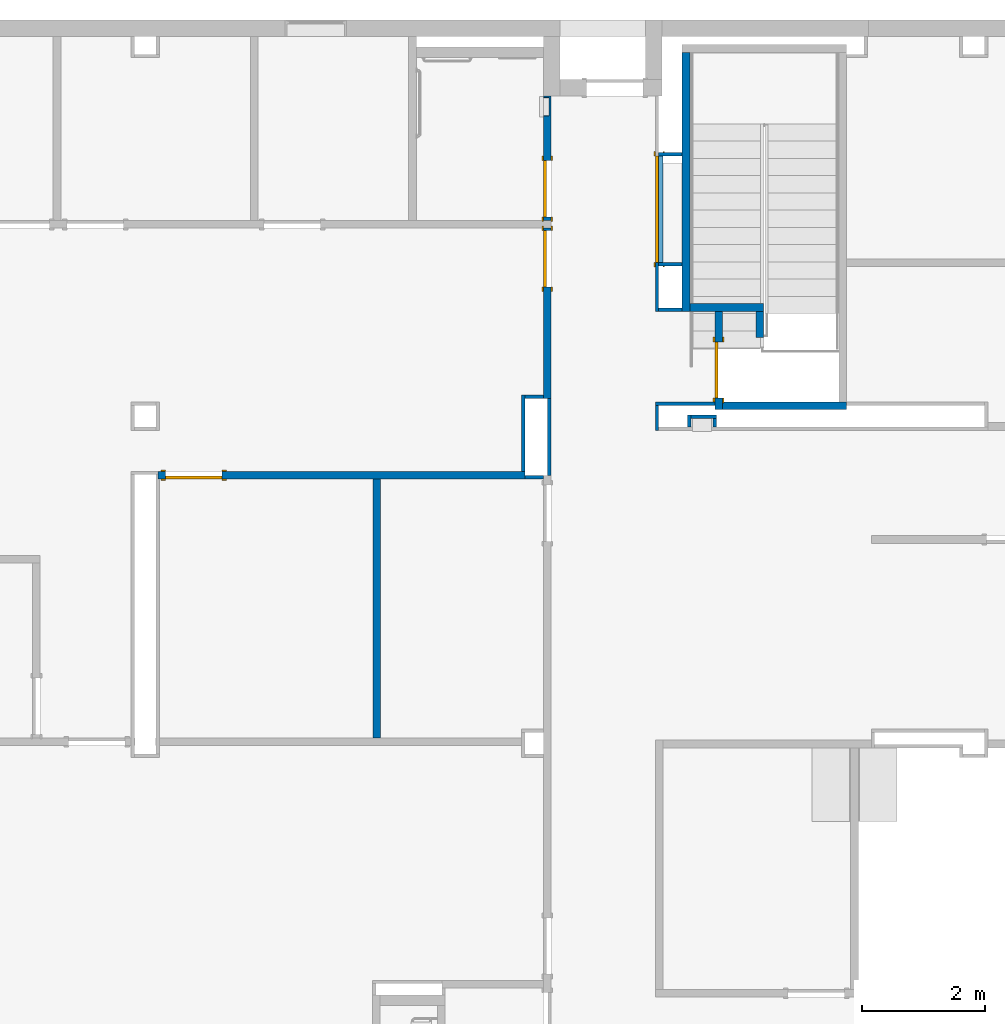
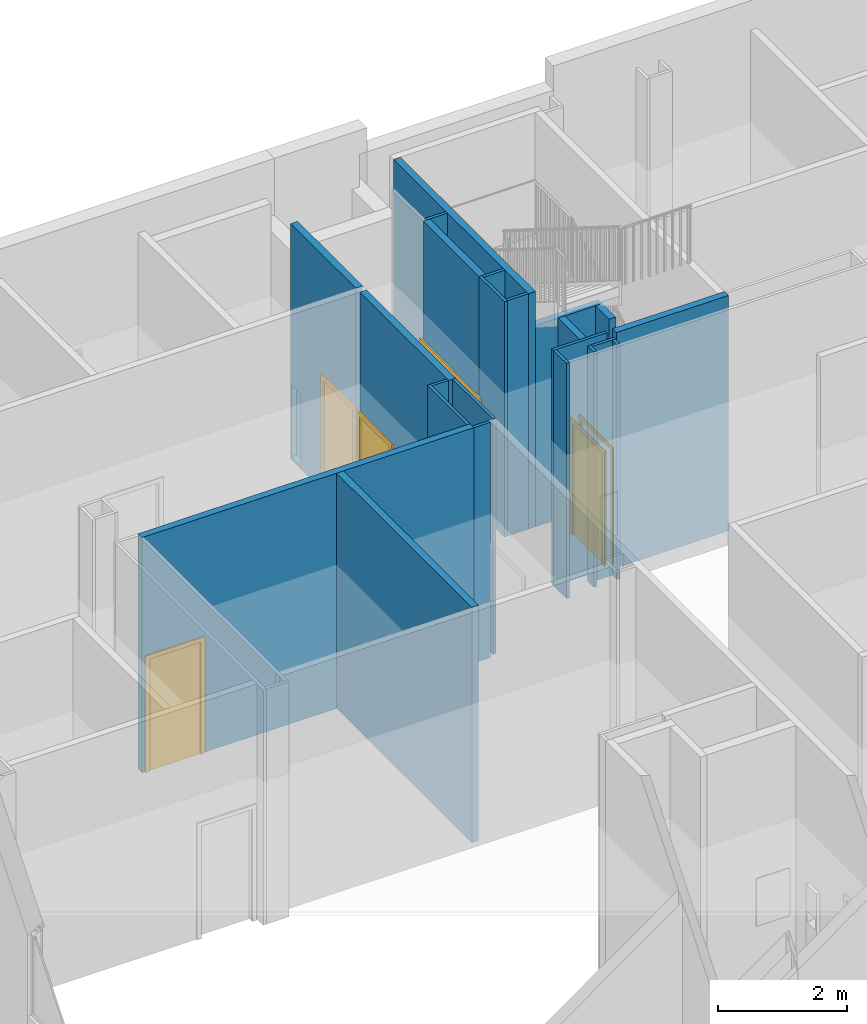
# One storey, part 32 of 87: 23 walls, 5 doors, 6 openings.
"""IFC2X3 building model written with IfcOpenShell, lengths in metres."""

from ifc_helpers import new_model, entity, si_unit, converted_unit, frame, frame_2d, origin, origin_2d_with_axis, place, context, project, spatial, polyline, rectangle, outline, extrude, source, transform, mapped, material, layer, layer_set, layer_usage, type_object, type_shapes, element, fill, save


model = new_model("IFC2X3")

# Units and contexts
model_context = context("Model", 3, precision=1e-09, world=origin())
plan_context = context("Plan", 3, precision=1e-09, world=origin())
ifc_project = project(units=[si_unit("LENGTHUNIT", "METRE"), si_unit("AREAUNIT", "SQUARE_METRE"), si_unit("VOLUMEUNIT", "CUBIC_METRE"), converted_unit("PLANEANGLEUNIT", "DEGREE", entity("IfcRatioMeasure", 0.01745329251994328), si_unit("PLANEANGLEUNIT", "RADIAN"), dimensions=[0, 0, 0, 0, 0, 0, 0]), si_unit("TIMEUNIT", "SECOND")], contexts=[model_context, plan_context])

# Site, building, storey
site_placement = place(None, origin())
site = spatial("IfcSite", under=ifc_project, at=site_placement, Name="Default", CompositionType="ELEMENT")
building_placement = place(site_placement, origin())
building = spatial("IfcBuilding", under=site, at=building_placement, CompositionType="ELEMENT")
storey_placement = place(building_placement, origin())
storey = spatial("IfcBuildingStorey", under=building, at=storey_placement, Name="First Floor", CompositionType="ELEMENT", Elevation=-3.531500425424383e-13)

# Wall, openings, door
ifc_material_1 = material(Name="Plasterboard")
ifc_layer_1 = layer(ifc_material_1, 0.016)
ifc_material_2 = material(Name="Metal - Stud Layer")
ifc_layer_2 = layer(ifc_material_2, 0.092)
ifc_layer_3 = layer(ifc_material_1, 0.016)
ifc_layer_set_1 = layer_set([ifc_layer_1, ifc_layer_2, ifc_layer_3], Name="Basic Wall:Interior - Partition (92mm Stud)")
ifc_layer_usage_1 = layer_usage(ifc_layer_set_1, "AXIS2", "NEGATIVE", 0.062)
wall_1_placement = place(storey_placement, frame((-40.47500000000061, 55.28799999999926, 0.0), z_axis=(0.0, 0.0, 1.0), x_axis=(0.0, -1.0, 0.0)))
wall_1 = element("IfcWallStandardCase", 1, at=wall_1_placement, inside=storey, material=ifc_layer_usage_1, Name="Basic Wall:Interior - Partition (92mm Stud)", ObjectType="Basic Wall:Interior - Partition (92mm Stud)", context=model_context, shape_type="SweptSolid", body=[
    extrude(rectangle(XDim=2.024000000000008, YDim=0.1240000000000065, at=frame_2d((1.012000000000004, 0.0), x_axis=(-1.0, 0.0))), origin(), (0.0, 0.0, 1.0), 4.46800000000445),
])
opening_1_placement = place(wall_1_placement, origin())
element("IfcOpeningElement", 2, at=opening_1_placement, cuts=wall_1, ObjectType="Opening", context=model_context, shape_type="SweptSolid", body=[
    extrude(rectangle(XDim=1.362075, YDim=0.2984499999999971, at=origin_2d_with_axis()), frame((0.1749000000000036, -0.1255000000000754, 0.7371999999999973), z_axis=(0.0, 1.0, 0.0), x_axis=(0.0, 0.0, -1.0)), (0.0, 0.0, 1.0), 0.15240000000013),
])
opening_2_placement = place(wall_1_placement, frame((1.963999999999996, 0.06200000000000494, 0.0)))
opening_2 = element("IfcOpeningElement", 3, at=opening_2_placement, cuts=wall_1, Name="M_Single-Flush:0915 x 2134mm:0915 x 2134mm:1", ObjectType="Opening", context=model_context, shape_type="SweptSolid", body=[
    extrude(rectangle(XDim=0.9149999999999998, YDim=2.134, at=frame_2d((1.067, 0.4575000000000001), x_axis=(0.0, -1.0))), frame((0.0, 0.0, 0.0), z_axis=(0.0, -1.0, 0.0), x_axis=(0.0, 0.0, 1.0)), (0.0, 0.0, 1.0), 0.124),
])
door_style_1 = type_object("IfcDoorStyle", Name="0915 x 2134mm", ConstructionType="NOTDEFINED", OperationType="SINGLE_SWING_LEFT", ParameterTakesPrecedence=False, Sizeable=False)
shared_shape_1 = source(origin(), model_context, "Body", "SweptSolid", [
    extrude(outline(polyline([(-0.5335, -1.123999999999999), (0.5334999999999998, -1.123999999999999), (0.5334999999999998, 1.086), (0.4574999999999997, 1.086), (0.4574999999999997, -1.048000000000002), (-0.4574999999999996, -1.048000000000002), (-0.4574999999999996, 1.086), (-0.5335, 1.086), (-0.5335, -1.123999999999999)])), frame((0.4575000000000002, 0.1489999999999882, 1.086), z_axis=(0.0, -1.0, 0.0), x_axis=(-1.0, 0.0, 0.0)), (0.0, 0.0, 1.0), 0.02499999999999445),
    extrude(outline(polyline([(-1.123999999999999, -0.5334999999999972), (1.085999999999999, -0.5334999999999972), (1.085999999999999, -0.4575000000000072), (-1.048, -0.4575000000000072), (-1.048, 0.4575000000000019), (1.085999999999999, 0.4575000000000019), (1.085999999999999, 0.5335000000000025), (-1.123999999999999, 0.5335000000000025), (-1.123999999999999, -0.5334999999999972)])), frame((0.4574999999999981, 0.0, 1.085999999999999), z_axis=(0.0, -1.0, 0.0), x_axis=(0.0, 0.0, -1.0)), (0.0, 0.0, 1.0), 0.02500000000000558),
    extrude(rectangle(XDim=0.9149999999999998, YDim=0.051, at=origin_2d_with_axis()), frame((0.4575000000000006, 0.09849999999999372, 0.0)), (0.0, 0.0, 1.0), 2.133999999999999),
])
type_shapes(door_style_1, [shared_shape_1])
door_1_placement = place(opening_2_placement, frame((0.0, 0.0, 0.0), z_axis=(0.0, 0.0, 1.0), x_axis=(-1.0, 0.0, 0.0)))
door_1 = element("IfcDoor", 4, at=door_1_placement, inside=storey, type_object=door_style_1, Name="M_Single-Flush:0915 x 2134mm:0915 x 2134mm", ObjectType="0915 x 2134mm", OverallHeight=2.134, OverallWidth=0.9149999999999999, context=model_context, shape_type="MappedRepresentation", body=[
    mapped(shared_shape_1, transform((0.0, 0.0, 0.0), scale=1.0)),
])
fill(opening_2, door_1)

# Wall, opening, door
ifc_layer_usage_2 = layer_usage(ifc_layer_set_1, "AXIS2", "NEGATIVE", 0.062)
wall_2_placement = place(storey_placement, frame((-40.47500000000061, 53.13999999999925, 0.0), z_axis=(0.0, 0.0, 1.0), x_axis=(0.0, -1.0, 0.0)))
wall_2 = element("IfcWallStandardCase", 5, at=wall_2_placement, inside=storey, material=ifc_layer_usage_2, Name="Basic Wall:Interior - Partition (92mm Stud)", ObjectType="Basic Wall:Interior - Partition (92mm Stud)", context=model_context, shape_type="SweptSolid", body=[
    extrude(rectangle(XDim=2.763999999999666, YDim=0.1240000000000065, at=frame_2d((1.381999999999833, 0.0), x_axis=(-1.0, 0.0))), origin(), (0.0, 0.0, 1.0), 4.468000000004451),
])
opening_3_placement = place(wall_2_placement, frame((0.9549999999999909, 0.06200000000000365, 0.0)))
opening_3 = element("IfcOpeningElement", 6, at=opening_3_placement, cuts=wall_2, Name="M_Single-Flush:0915 x 2134mm:0915 x 2134mm:1", ObjectType="Opening", context=model_context, shape_type="SweptSolid", body=[
    extrude(rectangle(XDim=0.9149999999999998, YDim=2.134, at=frame_2d((1.067, 0.4575), x_axis=(0.0, 1.0))), frame((0.0, 0.0, 0.0), z_axis=(0.0, -1.0, 0.0), x_axis=(0.0, 0.0, 1.0)), (0.0, 0.0, 1.0), 0.124),
])
door_style_2 = type_object("IfcDoorStyle", Name="0915 x 2134mm", ConstructionType="NOTDEFINED", OperationType="SINGLE_SWING_RIGHT", ParameterTakesPrecedence=False, Sizeable=False)
shared_shape_2 = source(origin(), model_context, "Body", "SweptSolid", [
    extrude(outline(polyline([(-0.5335, -1.123999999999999), (0.5334999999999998, -1.123999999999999), (0.5334999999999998, 1.086), (0.4574999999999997, 1.086), (0.4574999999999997, -1.048000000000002), (-0.4574999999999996, -1.048000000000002), (-0.4574999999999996, 1.086), (-0.5335, 1.086), (-0.5335, -1.123999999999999)])), frame((0.4575000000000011, 0.1239999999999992, 1.086), z_axis=(0.0, 1.0, 0.0), x_axis=(1.0, 0.0, 0.0)), (0.0, 0.0, 1.0), 0.02499999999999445),
    extrude(outline(polyline([(-1.123999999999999, -0.5334999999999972), (1.085999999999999, -0.5334999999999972), (1.085999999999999, -0.4575000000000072), (-1.048, -0.4575000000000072), (-1.048, 0.4575000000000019), (1.085999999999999, 0.4575000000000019), (1.085999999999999, 0.5335000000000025), (-1.123999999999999, 0.5335000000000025), (-1.123999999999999, -0.5334999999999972)])), frame((0.4575000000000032, -0.02500000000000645, 1.085999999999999), z_axis=(0.0, 1.0, 0.0), x_axis=(0.0, 0.0, -1.0)), (0.0, 0.0, 1.0), 0.02500000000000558),
    extrude(rectangle(XDim=0.051, YDim=0.9149999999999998, at=origin_2d_with_axis()), frame((0.4575000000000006, 0.09849999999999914, 0.0), z_axis=(0.0, 0.0, 1.0), x_axis=(0.0, 1.0, 0.0)), (0.0, 0.0, 1.0), 2.133999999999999),
])
type_shapes(door_style_2, [shared_shape_2])
door_2_placement = place(opening_3_placement, frame((0.0, 0.0, 0.0), z_axis=(0.0, 0.0, 1.0), x_axis=(-1.0, 0.0, 0.0)))
door_2 = element("IfcDoor", 7, at=door_2_placement, inside=storey, type_object=door_style_2, Name="M_Single-Flush:0915 x 2134mm:0915 x 2134mm", ObjectType="0915 x 2134mm", OverallHeight=2.134, OverallWidth=0.9149999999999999, context=model_context, shape_type="MappedRepresentation", body=[
    mapped(shared_shape_2, transform((0.0, 0.0, 0.0), scale=1.0)),
])
fill(opening_3, door_2)

ifc_layer_usage_3 = layer_usage(ifc_layer_set_1, "AXIS2", "NEGATIVE", 0.062)
wall_3_placement = place(storey_placement, frame((-40.83600000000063, 49.13199999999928, 0.0), z_axis=(0.0, 0.0, 1.0), x_axis=(-1.0, 0.0, 0.0)))
wall_3 = element("IfcWallStandardCase", 8, at=wall_3_placement, inside=storey, material=ifc_layer_usage_3, Name="Basic Wall:Interior - Partition (92mm Stud)", ObjectType="Basic Wall:Interior - Partition (92mm Stud)", context=model_context, shape_type="SweptSolid", body=[
    extrude(rectangle(XDim=5.960999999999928, YDim=0.1240000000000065, at=frame_2d((2.980499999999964, 0.0), x_axis=(-1.0, 0.0))), origin(), (0.0, 0.0, 1.0), 4.468000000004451),
])
opening_4_placement = place(wall_3_placement, frame((4.918999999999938, -0.06200000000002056, 0.0)))
opening_4 = element("IfcOpeningElement", 9, at=opening_4_placement, cuts=wall_3, Name="M_Single-Flush:0915 x 2134mm:0915 x 2134mm:1", ObjectType="Opening", context=model_context, shape_type="SweptSolid", body=[
    extrude(rectangle(XDim=0.9149999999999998, YDim=2.134, at=frame_2d((1.067, 0.4575), x_axis=(0.0, 1.0))), frame((0.0, 0.0, 0.0), z_axis=(0.0, 1.0, 0.0), x_axis=(0.0, 0.0, 1.0)), (0.0, 0.0, 1.0), 0.124),
])
door_3_placement = place(opening_4_placement, origin())
door_3 = element("IfcDoor", 10, at=door_3_placement, inside=storey, type_object=door_style_2, Name="M_Single-Flush:0915 x 2134mm:0915 x 2134mm", ObjectType="0915 x 2134mm", OverallHeight=2.134, OverallWidth=0.9149999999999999, context=model_context, shape_type="MappedRepresentation", body=[
    mapped(shared_shape_2, transform((0.0, 0.0, 0.0), scale=1.0)),
])
fill(opening_4, door_3)

# Wall
ifc_layer_usage_4 = layer_usage(ifc_layer_set_1, "AXIS2", "NEGATIVE", 0.062)
wall_4_placement = place(storey_placement, frame((-43.24200000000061, 49.06999999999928, 0.0), z_axis=(0.0, 0.0, 1.0), x_axis=(0.0, -1.0, 0.0)))
element("IfcWallStandardCase", 11, at=wall_4_placement, inside=storey, material=ifc_layer_usage_4, Name="Basic Wall:Interior - Partition (92mm Stud)", ObjectType="Basic Wall:Interior - Partition (92mm Stud)", context=model_context, shape_type="SweptSolid", body=[
    extrude(rectangle(XDim=4.205999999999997, YDim=0.1240000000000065, at=frame_2d((2.102999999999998, 0.0), x_axis=(-1.0, 0.0))), origin(), (0.0, 0.0, 1.0), 4.46800000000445),
])

# Wall, opening, door
ifc_layer_usage_5 = layer_usage(ifc_layer_set_1, "AXIS2", "NEGATIVE", 0.062)
wall_5_placement = place(storey_placement, frame((-38.65800000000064, 54.31342569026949, 0.0), z_axis=(0.0, 0.0, 1.0), x_axis=(0.0, -1.0, 0.0)))
wall_5 = element("IfcWallStandardCase", 12, at=wall_5_placement, inside=storey, material=ifc_layer_usage_5, Name="Basic Wall:Interior - Partition (92mm Stud)", ObjectType="Basic Wall:Interior - Partition (92mm Stud)", context=model_context, shape_type="SweptSolid", body=[
    extrude(rectangle(XDim=1.730000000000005, YDim=0.1239999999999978, at=frame_2d((0.8650000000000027, 0.0), x_axis=(-1.0, 0.0))), origin(), (0.0, 0.0, 1.0), 4.468000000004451),
])
opening_5_placement = place(wall_5_placement, frame((1.729999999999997, 0.06199999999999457, 0.0)))
opening_5 = element("IfcOpeningElement", 13, at=opening_5_placement, cuts=wall_5, Name="M_Double-Flush:1730 x 2134mm:1730 x 2134mm:1", ObjectType="Opening", context=model_context, shape_type="SweptSolid", body=[
    extrude(rectangle(XDim=2.133999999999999, YDim=1.729999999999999, at=frame_2d((1.067, 0.8649999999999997), x_axis=(1.0, 0.0))), frame((0.0, 0.0, 0.0), z_axis=(0.0, -1.0, 0.0), x_axis=(0.0, 0.0, 1.0)), (0.0, 0.0, 1.0), 0.124),
])
door_style_3 = type_object("IfcDoorStyle", Name="1730 x 2134mm", ConstructionType="NOTDEFINED", OperationType="DOUBLE_DOOR_SINGLE_SWING", ParameterTakesPrecedence=False, Sizeable=False)
shared_shape_3 = source(origin(), model_context, "Body", "SweptSolid", [
    extrude(rectangle(XDim=0.051, YDim=0.8650000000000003, at=origin_2d_with_axis()), frame((1.2975, 0.09850000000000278, 0.0), z_axis=(0.0, 0.0, 1.0), x_axis=(0.0, -1.0, 0.0)), (0.0, 0.0, 1.0), 2.133999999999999),
    extrude(rectangle(XDim=0.05099999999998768, YDim=0.8649999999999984, at=origin_2d_with_axis()), frame((0.4325000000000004, 0.09850000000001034, 0.0), z_axis=(0.0, 0.0, 1.0), x_axis=(0.0, -1.0, 0.0)), (0.0, 0.0, 1.0), 2.134),
    extrude(outline(polyline([(-1.048, 0.8649999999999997), (1.086, 0.8649999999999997), (1.086, 0.9409999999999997), (-1.124, 0.9409999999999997), (-1.124, -0.9409999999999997), (1.086, -0.9409999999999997), (1.086, -0.8649999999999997), (-1.048, -0.8649999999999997), (-1.048, 0.8649999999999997)])), frame((0.8649999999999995, -0.02499999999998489, 1.086), z_axis=(0.0, 1.0, 0.0), x_axis=(0.0, 0.0, -1.0)), (0.0, 0.0, 1.0), 0.02499999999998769),
    extrude(outline(polyline([(-1.048, 0.8649999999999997), (1.086, 0.8649999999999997), (1.086, 0.9409999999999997), (-1.124, 0.9409999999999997), (-1.124, -0.9409999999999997), (1.086, -0.9409999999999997), (1.086, -0.8649999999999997), (-1.048, -0.8649999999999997), (-1.048, 0.8649999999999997)])), frame((0.8649999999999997, 0.1240000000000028, 1.086), z_axis=(0.0, 1.0, 0.0), x_axis=(0.0, 0.0, -1.0)), (0.0, 0.0, 1.0), 0.02500000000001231),
])
type_shapes(door_style_3, [shared_shape_3])
door_4_placement = place(opening_5_placement, frame((0.0, 0.0, 0.0), z_axis=(0.0, 0.0, 1.0), x_axis=(-1.0, 0.0, 0.0)))
door_4 = element("IfcDoor", 14, at=door_4_placement, inside=storey, type_object=door_style_3, Name="M_Double-Flush:1730 x 2134mm:1730 x 2134mm", ObjectType="1730 x 2134mm", OverallHeight=2.133999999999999, OverallWidth=1.729999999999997, context=model_context, shape_type="MappedRepresentation", body=[
    mapped(shared_shape_3, transform((0.0, 0.0, 0.0), scale=1.0)),
])
fill(opening_5, door_4)

# Walls
ifc_material_3 = material(Name="Type-X Plasterboard")
ifc_layer_4 = layer(ifc_material_3, 0.016)
ifc_layer_5 = layer(ifc_material_2, 0.092)
ifc_layer_6 = layer(ifc_material_3, 0.016)
ifc_layer_set_2 = layer_set([ifc_layer_4, ifc_layer_5, ifc_layer_6], Name="Basic Wall:Interior - Rated 1-HR (92mm Stud)")
ifc_layer_usage_6 = layer_usage(ifc_layer_set_2, "AXIS2", "NEGATIVE", 0.06200000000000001)
wall_6_placement = place(storey_placement, frame((-38.22200014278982, 55.99500035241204, 0.0), z_axis=(0.0, 0.0, 1.0), x_axis=(0.0, -1.0, 0.0)))
element("IfcWallStandardCase", 15, at=wall_6_placement, inside=storey, material=ifc_layer_usage_6, Name="Basic Wall:Interior - Rated 1-HR (92mm Stud)", ObjectType="Basic Wall:Interior - Rated 1-HR (92mm Stud)", context=model_context, shape_type="SweptSolid", body=[
    extrude(rectangle(XDim=4.205000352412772, YDim=0.1239999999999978, at=frame_2d((2.102500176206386, 0.0), x_axis=(-1.0, 0.0))), origin(), (0.0, 0.0, 1.0), 4.468000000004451),
])
ifc_layer_usage_7 = layer_usage(ifc_layer_set_2, "AXIS2", "NEGATIVE", 0.06200000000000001)
wall_7_placement = place(storey_placement, frame((-36.96100000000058, 51.85199999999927, 0.0), z_axis=(0.0, 0.0, 1.0), x_axis=(-1.0, 0.0, 0.0)))
element("IfcWallStandardCase", 16, at=wall_7_placement, inside=storey, material=ifc_layer_usage_7, Name="Basic Wall:Interior - Rated 1-HR (92mm Stud)", ObjectType="Basic Wall:Interior - Rated 1-HR (92mm Stud)", context=model_context, shape_type="SweptSolid", body=[
    extrude(rectangle(XDim=1.199000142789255, YDim=0.1240000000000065, at=frame_2d((0.5995000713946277, 0.0), x_axis=(-1.0, 0.0))), origin(), (0.0, 0.0, 1.0), 3.82000000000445),
])
ifc_layer_usage_8 = layer_usage(ifc_layer_set_2, "AXIS2", "NEGATIVE", 0.06200000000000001)
wall_8_placement = place(storey_placement, frame((-37.02300000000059, 51.36699999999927, 0.0), z_axis=(0.0, 0.0, 1.0), x_axis=(0.0, 1.0, 0.0)))
element("IfcWallStandardCase", 17, at=wall_8_placement, inside=storey, material=ifc_layer_usage_8, Name="Basic Wall:Interior - Rated 1-HR (92mm Stud)", ObjectType="Basic Wall:Interior - Rated 1-HR (92mm Stud)", context=model_context, shape_type="SweptSolid", body=[
    extrude(rectangle(XDim=0.4229999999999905, YDim=0.1239999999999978, at=frame_2d((0.2114999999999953, 0.0), x_axis=(-1.0, 0.0))), origin(), (0.0, 0.0, 1.0), 3.82000000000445),
])

# Wall, opening, door
ifc_layer_usage_9 = layer_usage(ifc_layer_set_2, "AXIS2", "NEGATIVE", 0.06200000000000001)
wall_9_placement = place(storey_placement, frame((-37.6930000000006, 50.19599999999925, 0.0), z_axis=(0.0, 0.0, 1.0), x_axis=(0.0, 1.0, 0.0)))
wall_9 = element("IfcWallStandardCase", 18, at=wall_9_placement, inside=storey, material=ifc_layer_usage_9, Name="Basic Wall:Interior - Rated 1-HR (92mm Stud)", ObjectType="Basic Wall:Interior - Rated 1-HR (92mm Stud)", context=model_context, shape_type="SweptSolid", body=[
    extrude(rectangle(XDim=1.594000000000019, YDim=0.1239999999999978, at=frame_2d((0.7970000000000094, 0.0), x_axis=(-1.0, 0.0))), origin(), (0.0, 0.0, 1.0), 3.82000000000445),
])
opening_6_placement = place(wall_9_placement, frame((0.1840000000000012, -0.0619999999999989, 0.0)))
opening_6 = element("IfcOpeningElement", 19, at=opening_6_placement, cuts=wall_9, Name="M_Single-Flush:0915 x 2134mm Rated:0915 x 2134mm Rated:1", ObjectType="Opening", context=model_context, shape_type="SweptSolid", body=[
    extrude(rectangle(XDim=0.9149999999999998, YDim=2.134, at=frame_2d((1.067, 0.4575000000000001), x_axis=(0.0, -1.0))), frame((0.0, 0.0, 0.0), z_axis=(0.0, 1.0, 0.0), x_axis=(0.0, 0.0, 1.0)), (0.0, 0.0, 1.0), 0.124),
])
door_style_4 = type_object("IfcDoorStyle", Name="0915 x 2134mm Rated", ConstructionType="NOTDEFINED", OperationType="SINGLE_SWING_LEFT", ParameterTakesPrecedence=False, Sizeable=False)
shared_shape_4 = source(origin(), model_context, "Body", "SweptSolid", [
    extrude(outline(polyline([(-0.5335, -1.123999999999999), (0.5334999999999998, -1.123999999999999), (0.5334999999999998, 1.086), (0.4574999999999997, 1.086), (0.4574999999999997, -1.048000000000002), (-0.4574999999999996, -1.048000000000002), (-0.4574999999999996, 1.086), (-0.5335, 1.086), (-0.5335, -1.123999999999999)])), frame((0.4575000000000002, 0.1489999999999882, 1.086), z_axis=(0.0, -1.0, 0.0), x_axis=(-1.0, 0.0, 0.0)), (0.0, 0.0, 1.0), 0.02499999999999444),
    extrude(outline(polyline([(-1.123999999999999, -0.5334999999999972), (1.085999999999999, -0.5334999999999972), (1.085999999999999, -0.4575000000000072), (-1.048, -0.4575000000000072), (-1.048, 0.4575000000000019), (1.085999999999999, 0.4575000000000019), (1.085999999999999, 0.5335000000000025), (-1.123999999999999, 0.5335000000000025), (-1.123999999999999, -0.5334999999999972)])), frame((0.4574999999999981, 0.0, 1.085999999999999), z_axis=(0.0, -1.0, 0.0), x_axis=(0.0, 0.0, -1.0)), (0.0, 0.0, 1.0), 0.02500000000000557),
    extrude(rectangle(XDim=0.9149999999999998, YDim=0.051, at=origin_2d_with_axis()), frame((0.4575000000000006, 0.09849999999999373, 0.0)), (0.0, 0.0, 1.0), 2.133999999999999),
])
type_shapes(door_style_4, [shared_shape_4])
door_5_placement = place(opening_6_placement, origin())
door_5 = element("IfcDoor", 20, at=door_5_placement, inside=storey, type_object=door_style_4, Name="M_Single-Flush:0915 x 2134mm Rated:0915 x 2134mm Rated", ObjectType="0915 x 2134mm Rated", OverallHeight=2.134, OverallWidth=0.9149999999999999, context=model_context, shape_type="MappedRepresentation", body=[
    mapped(shared_shape_4, transform((0.0, 0.0, 0.0), scale=1.0)),
])
fill(opening_6, door_5)

# Walls
ifc_layer_usage_10 = layer_usage(ifc_layer_set_2, "AXIS2", "NEGATIVE", 0.06200000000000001)
wall_10_placement = place(storey_placement, frame((-37.6930000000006, 50.25799999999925, 0.0)))
element("IfcWallStandardCase", 21, at=wall_10_placement, inside=storey, material=ifc_layer_usage_10, Name="Basic Wall:Interior - Rated 1-HR (92mm Stud)", ObjectType="Basic Wall:Interior - Rated 1-HR (92mm Stud)", context=model_context, shape_type="SweptSolid", body=[
    extrude(rectangle(XDim=2.014999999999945, YDim=0.1239999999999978, at=frame_2d((1.069499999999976, 0.0), x_axis=(-1.0, 0.0))), origin(), (0.0, 0.0, 1.0), 4.46800000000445),
])
ifc_layer_7 = layer(ifc_material_2, 0.038)
ifc_layer_8 = layer(ifc_material_1, 0.016)
ifc_layer_set_3 = layer_set([ifc_layer_7, ifc_layer_8], Name="Basic Wall:Interior - Furring (38 mm Stud)")
ifc_layer_usage_11 = layer_usage(ifc_layer_set_3, "AXIS2", "NEGATIVE", 0.027)
wall_11_placement = place(storey_placement, frame((-40.86300000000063, 50.42999999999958, 0.0), z_axis=(0.0, 0.0, 1.0), x_axis=(0.0, -1.0, 0.0)))
element("IfcWallStandardCase", 22, at=wall_11_placement, inside=storey, material=ifc_layer_usage_11, Name="Basic Wall:Interior - Furring (38 mm Stud)", ObjectType="Basic Wall:Interior - Furring (38 mm Stud)", context=model_context, shape_type="SweptSolid", body=[
    extrude(rectangle(XDim=1.236000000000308, YDim=0.05400000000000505, at=frame_2d((0.6180000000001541, 0.0), x_axis=(-1.0, 0.0))), origin(), (0.0, 0.0, 1.0), 4.46800000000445),
])
ifc_layer_usage_12 = layer_usage(ifc_layer_set_3, "AXIS2", "NEGATIVE", 0.027)
wall_12_placement = place(storey_placement, frame((-40.83600000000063, 49.09699999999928, 0.0)))
element("IfcWallStandardCase", 23, at=wall_12_placement, inside=storey, material=ifc_layer_usage_12, Name="Basic Wall:Interior - Furring (38 mm Stud)", ObjectType="Basic Wall:Interior - Furring (38 mm Stud)", context=model_context, shape_type="SweptSolid", body=[
    extrude(rectangle(XDim=0.29900000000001, YDim=0.05400000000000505, at=frame_2d((0.149500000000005, 0.0), x_axis=(-1.0, 0.0))), origin(), (0.0, 0.0, 1.0), 4.46800000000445),
])
ifc_layer_usage_13 = layer_usage(ifc_layer_set_3, "AXIS2", "NEGATIVE", 0.027)
wall_13_placement = place(storey_placement, frame((-40.44000000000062, 49.12399999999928, 0.0), z_axis=(0.0, 0.0, 1.0), x_axis=(0.0, 1.0, 0.0)))
element("IfcWallStandardCase", 24, at=wall_13_placement, inside=storey, material=ifc_layer_usage_13, Name="Basic Wall:Interior - Furring (38 mm Stud)", ObjectType="Basic Wall:Interior - Furring (38 mm Stud)", context=model_context, shape_type="SweptSolid", body=[
    extrude(rectangle(XDim=1.252000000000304, YDim=0.05400000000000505, at=frame_2d((0.6260000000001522, 0.0), x_axis=(-1.0, 0.0))), origin(), (0.0, 0.0, 1.0), 4.46800000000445),
])
ifc_layer_usage_14 = layer_usage(ifc_layer_set_3, "AXIS2", "NEGATIVE", 0.027)
wall_14_placement = place(storey_placement, frame((-40.53700000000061, 50.40299999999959, 0.0), z_axis=(0.0, 0.0, 1.0), x_axis=(-1.0, 0.0, 0.0)))
element("IfcWallStandardCase", 25, at=wall_14_placement, inside=storey, material=ifc_layer_usage_14, Name="Basic Wall:Interior - Furring (38 mm Stud)", ObjectType="Basic Wall:Interior - Furring (38 mm Stud)", context=model_context, shape_type="SweptSolid", body=[
    extrude(rectangle(XDim=0.2990000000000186, YDim=0.05400000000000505, at=frame_2d((0.1495000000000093, 0.0), x_axis=(-1.0, 0.0))), origin(), (0.0, 0.0, 1.0), 4.46800000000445),
])
ifc_layer_usage_15 = layer_usage(ifc_layer_set_3, "AXIS2", "NEGATIVE", 0.027)
wall_15_placement = place(storey_placement, frame((-38.69300000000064, 52.58342569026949, 0.0), z_axis=(0.0, 0.0, 1.0), x_axis=(0.0, -1.0, 0.0)))
element("IfcWallStandardCase", 26, at=wall_15_placement, inside=storey, material=ifc_layer_usage_15, Name="Basic Wall:Interior - Furring (38 mm Stud)", ObjectType="Basic Wall:Interior - Furring (38 mm Stud)", context=model_context, shape_type="SweptSolid", body=[
    extrude(rectangle(XDim=0.7934256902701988, YDim=0.05399999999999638, at=frame_2d((0.3967128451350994, 0.0), x_axis=(-1.0, 0.0))), origin(), (0.0, 0.0, 1.0), 4.46800000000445),
])
ifc_layer_usage_16 = layer_usage(ifc_layer_set_3, "AXIS2", "NEGATIVE", 0.027)
wall_16_placement = place(storey_placement, frame((-38.66600000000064, 51.81699999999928, 0.0)))
element("IfcWallStandardCase", 27, at=wall_16_placement, inside=storey, material=ifc_layer_usage_16, Name="Basic Wall:Interior - Furring (38 mm Stud)", ObjectType="Basic Wall:Interior - Furring (38 mm Stud)", context=model_context, shape_type="SweptSolid", body=[
    extrude(rectangle(XDim=0.3819998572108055, YDim=0.05400000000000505, at=frame_2d((0.1909999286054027, 0.0), x_axis=(-1.0, 0.0))), origin(), (0.0, 0.0, 1.0), 4.46800000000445),
])
ifc_layer_usage_17 = layer_usage(ifc_layer_set_3, "AXIS2", "NEGATIVE", 0.027)
wall_17_placement = place(storey_placement, frame((-38.28400014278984, 52.55642569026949, 0.0), z_axis=(0.0, 0.0, 1.0), x_axis=(-1.0, 0.0, 0.0)))
element("IfcWallStandardCase", 28, at=wall_17_placement, inside=storey, material=ifc_layer_usage_17, Name="Basic Wall:Interior - Furring (38 mm Stud)", ObjectType="Basic Wall:Interior - Furring (38 mm Stud)", context=model_context, shape_type="SweptSolid", body=[
    extrude(rectangle(XDim=0.3819998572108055, YDim=0.05400000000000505, at=frame_2d((0.1909999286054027, 0.0), x_axis=(-1.0, 0.0))), origin(), (0.0, 0.0, 1.0), 4.46800000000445),
])
ifc_layer_usage_18 = layer_usage(ifc_layer_set_3, "AXIS2", "NEGATIVE", 0.027)
wall_18_placement = place(storey_placement, frame((-37.6930000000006, 50.29299999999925, 0.0), z_axis=(0.0, 0.0, 1.0), x_axis=(-1.0, 0.0, 0.0)))
element("IfcWallStandardCase", 29, at=wall_18_placement, inside=storey, material=ifc_layer_usage_18, Name="Basic Wall:Interior - Furring (38 mm Stud)", ObjectType="Basic Wall:Interior - Furring (38 mm Stud)", context=model_context, shape_type="SweptSolid", body=[
    extrude(rectangle(XDim=0.965000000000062, YDim=0.05399999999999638, at=frame_2d((0.54450000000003, 0.0), x_axis=(-1.0, 0.0))), origin(), (0.0, 0.0, 1.0), 4.46800000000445),
])
ifc_layer_usage_19 = layer_usage(ifc_layer_set_3, "AXIS2", "NEGATIVE", 0.027)
wall_19_placement = place(storey_placement, frame((-38.69300000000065, 50.26599999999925, 0.0), z_axis=(0.0, 0.0, 1.0), x_axis=(0.0, -1.0, 0.0)))
element("IfcWallStandardCase", 30, at=wall_19_placement, inside=storey, material=ifc_layer_usage_19, Name="Basic Wall:Interior - Furring (38 mm Stud)", ObjectType="Basic Wall:Interior - Furring (38 mm Stud)", context=model_context, shape_type="SweptSolid", body=[
    extrude(rectangle(XDim=0.4059999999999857, YDim=0.05399999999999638, at=frame_2d((0.2029999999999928, 0.0), x_axis=(-1.0, 0.0))), origin(), (0.0, 0.0, 1.0), 4.46800000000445),
])
ifc_layer_usage_20 = layer_usage(ifc_layer_set_3, "AXIS2", "NEGATIVE", 0.027)
wall_20_placement = place(storey_placement, frame((-38.17100111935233, 49.91399999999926, 0.0), z_axis=(0.0, 0.0, 1.0), x_axis=(0.0, 1.0, 0.0)))
element("IfcWallStandardCase", 31, at=wall_20_placement, inside=storey, material=ifc_layer_usage_20, Name="Basic Wall:Interior - Furring (38 mm Stud)", ObjectType="Basic Wall:Interior - Furring (38 mm Stud)", context=model_context, shape_type="SweptSolid", body=[
    extrude(rectangle(XDim=0.195000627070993, YDim=0.05399999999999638, at=frame_2d((0.09750031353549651, 0.0), x_axis=(-1.0, 0.0))), origin(), (0.0, 0.0, 1.0), 4.46800000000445),
])
ifc_layer_usage_21 = layer_usage(ifc_layer_set_3, "AXIS2", "NEGATIVE", 0.027)
wall_21_placement = place(storey_placement, frame((-38.14400111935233, 50.08200062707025, 0.0)))
element("IfcWallStandardCase", 32, at=wall_21_placement, inside=storey, material=ifc_layer_usage_21, Name="Basic Wall:Interior - Furring (38 mm Stud)", ObjectType="Basic Wall:Interior - Furring (38 mm Stud)", context=model_context, shape_type="SweptSolid", body=[
    extrude(rectangle(XDim=0.4139999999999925, YDim=0.05400000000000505, at=frame_2d((0.2069999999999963, 0.0), x_axis=(-1.0, 0.0))), origin(), (0.0, 0.0, 1.0), 4.46800000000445),
])
ifc_layer_usage_22 = layer_usage(ifc_layer_set_3, "AXIS2", "NEGATIVE", 0.027)
wall_22_placement = place(storey_placement, frame((-37.75700111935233, 50.05500062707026, 0.0), z_axis=(0.0, 0.0, 1.0), x_axis=(0.0, -1.0, 0.0)))
element("IfcWallStandardCase", 33, at=wall_22_placement, inside=storey, material=ifc_layer_usage_22, Name="Basic Wall:Interior - Furring (38 mm Stud)", ObjectType="Basic Wall:Interior - Furring (38 mm Stud)", context=model_context, shape_type="SweptSolid", body=[
    extrude(rectangle(XDim=0.1410006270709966, YDim=0.05399999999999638, at=frame_2d((0.07050031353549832, 0.0), x_axis=(-1.0, 0.0))), origin(), (0.0, 0.0, 1.0), 4.46800000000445),
])
ifc_layer_usage_23 = layer_usage(ifc_layer_set_3, "AXIS2", "NEGATIVE", 0.027)
wall_23_placement = place(storey_placement, frame((-38.66600000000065, 54.34042569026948, 0.0)))
element("IfcWallStandardCase", 34, at=wall_23_placement, inside=storey, material=ifc_layer_usage_23, Name="Basic Wall:Interior - Furring (38 mm Stud)", ObjectType="Basic Wall:Interior - Furring (38 mm Stud)", context=model_context, shape_type="SweptSolid", body=[
    extrude(rectangle(XDim=0.3819998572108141, YDim=0.05400000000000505, at=frame_2d((0.1909999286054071, 0.0), x_axis=(-1.0, 0.0))), origin(), (0.0, 0.0, 1.0), 4.46800000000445),
])

save(model, "model.ifc")
